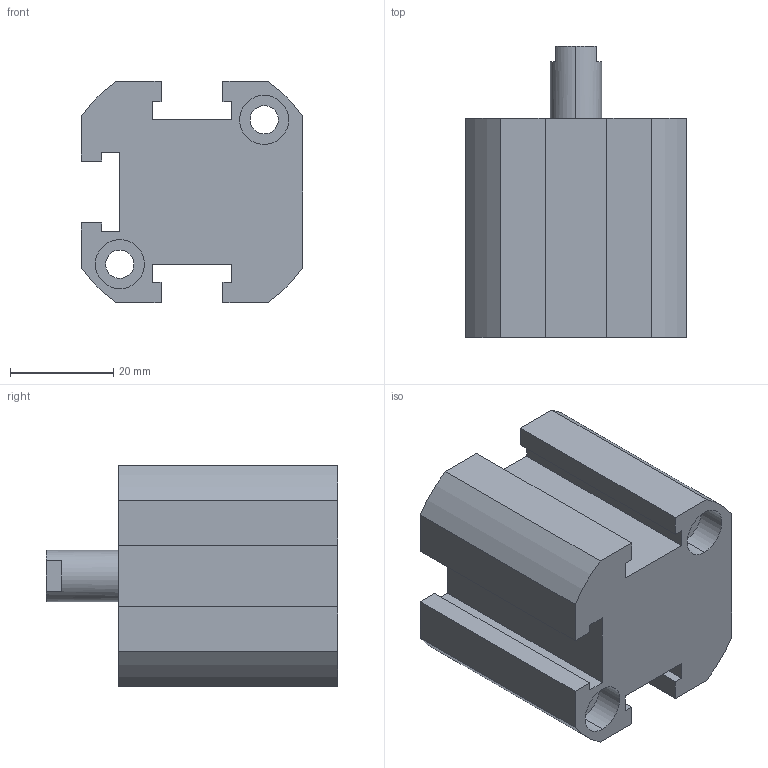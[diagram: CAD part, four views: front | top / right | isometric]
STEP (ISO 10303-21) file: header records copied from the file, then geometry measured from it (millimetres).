
FILE_DESCRIPTION (( 'STEP AP203' ), '1' );
FILE_NAME ('XG#0-25D-10.STEP', '2016-05-24T01:36:23', ( '' ), ( '' ), 'SwSTEP 2.0', 'SolidWorks 2014', '' );
FILE_SCHEMA (( 'CONFIG_CONTROL_DESIGN' ));
Length unit declared in the file: millimetre
Products named in the file (1): XG#0-25D-10
Bounding box: 43 x 56.5 x 43 mm (x, y, z)
Volume: 59118.9 mm3; surface area: 15089.2 mm2
Topology: 1 solids, 1 shells, 88 faces, 225 edges, 146 vertices
Faces by surface type: plane 44, cylinder 40, cone 4
Entity records: 2742 total; most frequent: DIRECTION 483, CARTESIAN_POINT 456, ORIENTED_EDGE 442, EDGE_CURVE 221, AXIS2_PLACEMENT_3D 173, VERTEX_POINT 146, VECTOR 137, LINE 137
